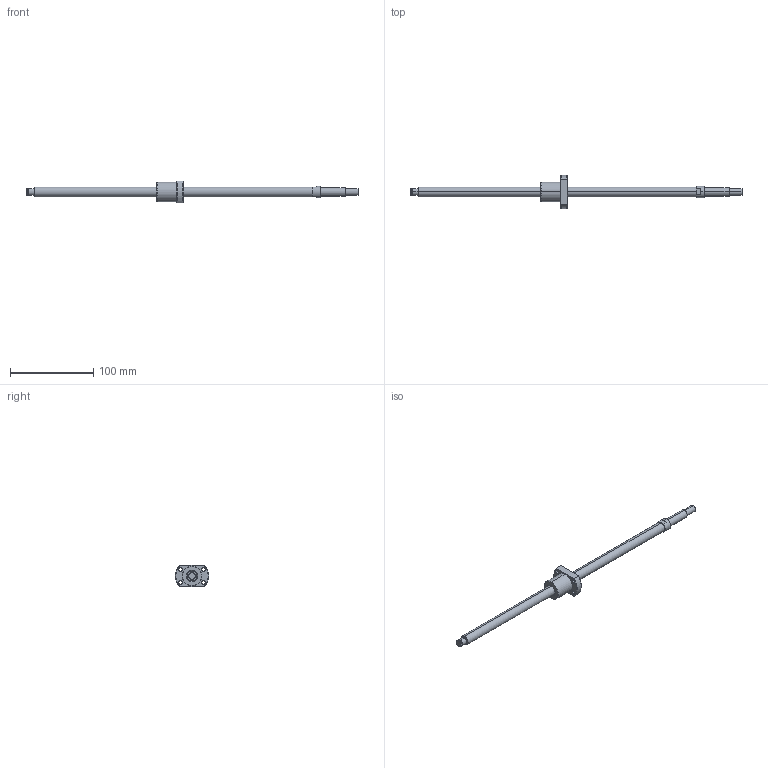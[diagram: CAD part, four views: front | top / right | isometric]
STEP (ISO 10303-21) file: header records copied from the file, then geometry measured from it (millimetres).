
FILE_DESCRIPTION (( 'STEP AP214' ), '1' );
FILE_NAME ('NSGF1205-330R400C_B_X.STEP', '2026-08-25T19:09:35', ( '' ), ( '' ), 'SwSTEP 2.0', 'SolidWorks 2025', '' );
FILE_SCHEMA (( 'AUTOMOTIVE_DESIGN' ));
Length unit declared in the file: millimetre
Products named in the file (3): NSG1205Z-330R40029_(T-S_T-B_2)-2^NSGF1205-330R400C_B_X; NSGF1205Z-1_7^NSGF1205-330R400C_B_X; NSGF1205-330R400C_B_X
Assembly tree (2 placements, depth 2):
  NSGF1205-330R400C_B_X
    NSG1205Z-330R40029_(T-S_T-B_2)-2^NSGF1205-330R400C_B_X
    NSGF1205Z-1_7^NSGF1205-330R400C_B_X
Bounding box: 400 x 39.88 x 26 mm (x, y, z)
Volume: 55488 mm3; surface area: 21051.7 mm2
Topology: 2 solids, 2 shells, 65 faces, 146 edges, 92 vertices
Faces by surface type: cylinder 30, plane 19, cone 12, torus 4
Entity records: 1974 total; most frequent: DIRECTION 362, CARTESIAN_POINT 332, ORIENTED_EDGE 292, AXIS2_PLACEMENT_3D 154, EDGE_CURVE 146, VERTEX_POINT 92, CIRCLE 84, EDGE_LOOP 82
